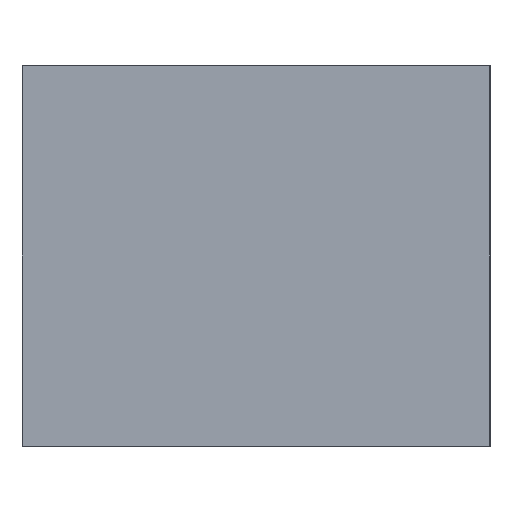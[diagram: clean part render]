
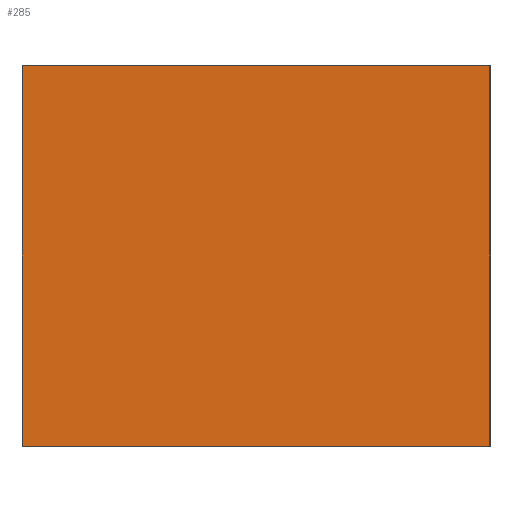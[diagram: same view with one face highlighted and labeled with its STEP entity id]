
A CAD part, left-side view. The second image highlights one B-rep face of the part: STEP entity #285.
In plain terms, the highlighted planar face has unit normal (-1, 0, 0).
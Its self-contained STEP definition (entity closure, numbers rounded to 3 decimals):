
#235=CARTESIAN_POINT('',(-2.25,1.6,2.6));
#236=VERTEX_POINT('',#235);
#242=CARTESIAN_POINT('',(-2.25,-1.6,2.6));
#243=VERTEX_POINT('',#242);
#244=CARTESIAN_POINT('',(-2.25,-1.6,2.6));
#245=CARTESIAN_POINT('',(-2.25,1.6,2.6));
#246=B_SPLINE_CURVE_WITH_KNOTS('',1,(#244,#245),.UNSPECIFIED.,.F.,.F.,(2,2),(0.,1.),.UNSPECIFIED.);
#247=EDGE_CURVE('',#243,#236,#246,.T.);
#258=CARTESIAN_POINT('',(-2.25,0.,1.3));
#259=DIRECTION('',(-1.,0.,0.));
#260=DIRECTION('',(0.,0.776,-0.631));
#261=AXIS2_PLACEMENT_3D('',#258,#259,#260);
#262=PLANE('',#261);
#263=CARTESIAN_POINT('',(-2.25,1.6,-0.));
#264=VERTEX_POINT('',#263);
#265=CARTESIAN_POINT('',(-2.25,1.6,2.6));
#266=CARTESIAN_POINT('',(-2.25,1.6,0.));
#267=B_SPLINE_CURVE_WITH_KNOTS('',1,(#265,#266),.UNSPECIFIED.,.F.,.F.,(2,2),(0.,1.),.UNSPECIFIED.);
#268=EDGE_CURVE('',#236,#264,#267,.T.);
#269=ORIENTED_EDGE('',*,*,#268,.T.);
#270=CARTESIAN_POINT('',(-2.25,-1.6,0.));
#271=VERTEX_POINT('',#270);
#272=CARTESIAN_POINT('',(-2.25,-1.6,0.));
#273=CARTESIAN_POINT('',(-2.25,1.6,0.));
#274=B_SPLINE_CURVE_WITH_KNOTS('',1,(#272,#273),.UNSPECIFIED.,.F.,.F.,(2,2),(0.,1.),.UNSPECIFIED.);
#275=EDGE_CURVE('',#271,#264,#274,.T.);
#276=ORIENTED_EDGE('',*,*,#275,.F.);
#277=CARTESIAN_POINT('',(-2.25,-1.6,2.6));
#278=CARTESIAN_POINT('',(-2.25,-1.6,0.));
#279=B_SPLINE_CURVE_WITH_KNOTS('',1,(#277,#278),.UNSPECIFIED.,.F.,.F.,(2,2),(0.,1.),.UNSPECIFIED.);
#280=EDGE_CURVE('',#243,#271,#279,.T.);
#281=ORIENTED_EDGE('',*,*,#280,.F.);
#282=ORIENTED_EDGE('',*,*,#247,.T.);
#283=EDGE_LOOP('',(#269,#276,#281,#282));
#284=FACE_BOUND('',#283,.T.);
#285=ADVANCED_FACE(' DE      215',(#284),#262,.T.);
